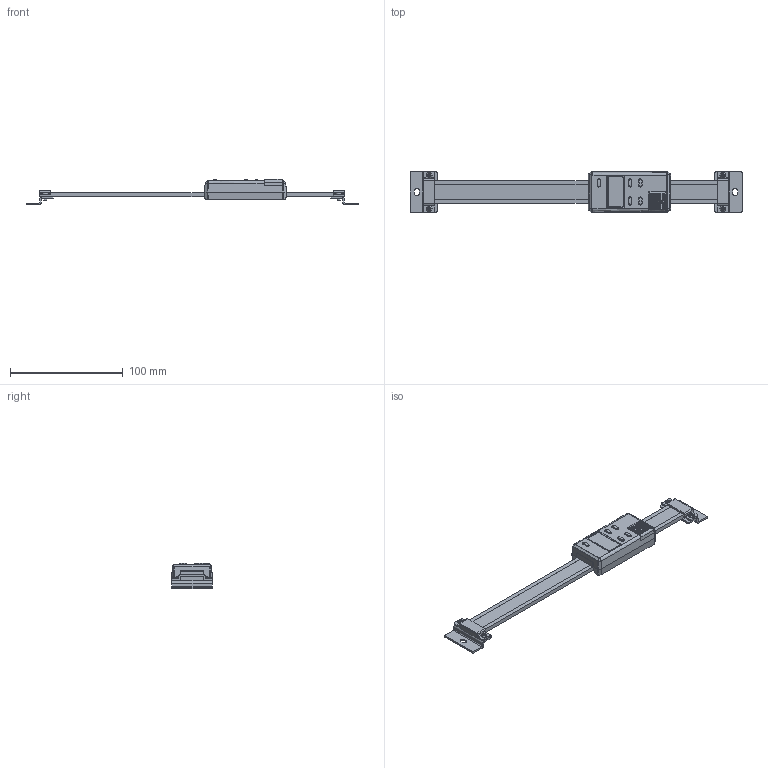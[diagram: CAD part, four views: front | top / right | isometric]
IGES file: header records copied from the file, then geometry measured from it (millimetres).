
Start section: Elysium IGES Interface
Global section: file name: 153HK:\20_商品設計\_他部署公開\00_商品群\03_測器\部会関係\2017年6月以降_新部会体制発足後\03_個別テーマ\2019_3Dデータ提供\SD_3Dデータ_iges\572-561_SDV-15E.igs; native system: Creo Elements/Direct Modeling 18.1I  13-Aug-2016; preprocessor: Creo Element/Direct IGES_3D V2.2; author: Unknown; organization: Unknown; date: 20191015.133903; units: millimetre
Bounding box: 294 x 36 x 22.8 mm (x, y, z)
Volume: 59325.2 mm3; surface area: 34968 mm2
Topology: 4 solids, 4 shells, 683 faces, 1728 edges, 1080 vertices
Faces by surface type: bspline 683
